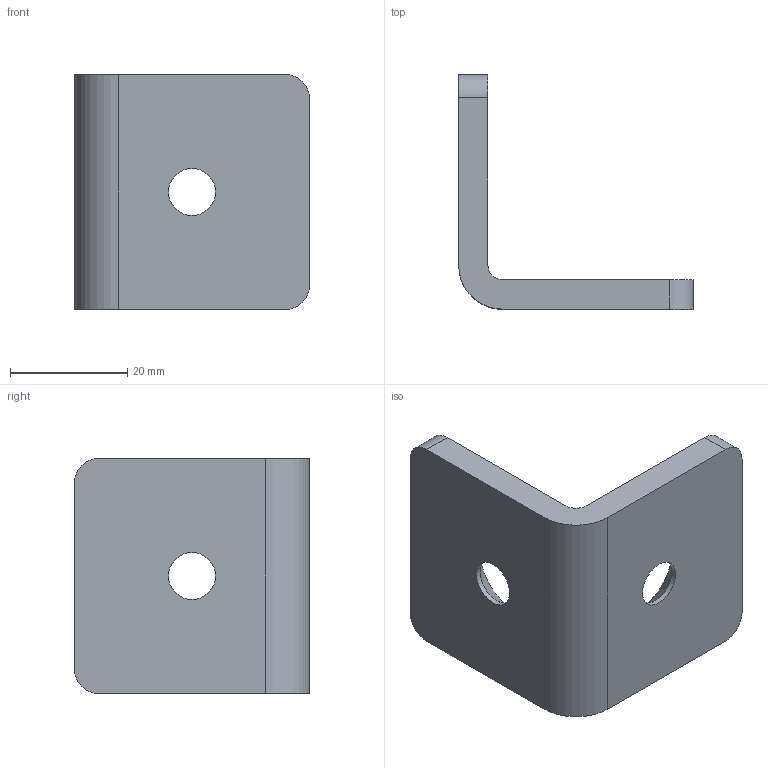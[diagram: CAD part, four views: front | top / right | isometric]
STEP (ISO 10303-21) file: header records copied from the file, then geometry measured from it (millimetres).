
FILE_DESCRIPTION( ( 'STEP AP203' ), '1' );
FILE_NAME( 'C:/Temp/Ganter_Step_05_03_2020/data/3_7/gn_967/gn_967_1/gn_967_1_l/Angle piece GN 967-40-40-L-1-SW.stp', '2020-03-12T14:48:22', ( 'License CC BY-ND 4.0' ), ( 'CADENAS' ), ' ', 'PARTsolutions', ' ' );
FILE_SCHEMA( ( 'CONFIG_CONTROL_DESIGN' ) );
Length unit declared in the file: millimetre
Products named in the file (1): _Angle piece GN 967-40-40-L-1-SW
Bounding box: 40 x 40 x 40 mm (x, y, z)
Volume: 13432.6 mm3; surface area: 6868.3 mm2
Topology: 1 solids, 1 shells, 18 faces, 46 edges, 30 vertices
Faces by surface type: cylinder 8, plane 8, cone 2
Full cylindrical faces by diameter (mm): 8 x2
Entity records: 584 total; most frequent: DIRECTION 98, CARTESIAN_POINT 91, ORIENTED_EDGE 84, EDGE_CURVE 42, AXIS2_PLACEMENT_3D 37, VERTEX_POINT 30, EDGE_LOOP 26, LINE 24
